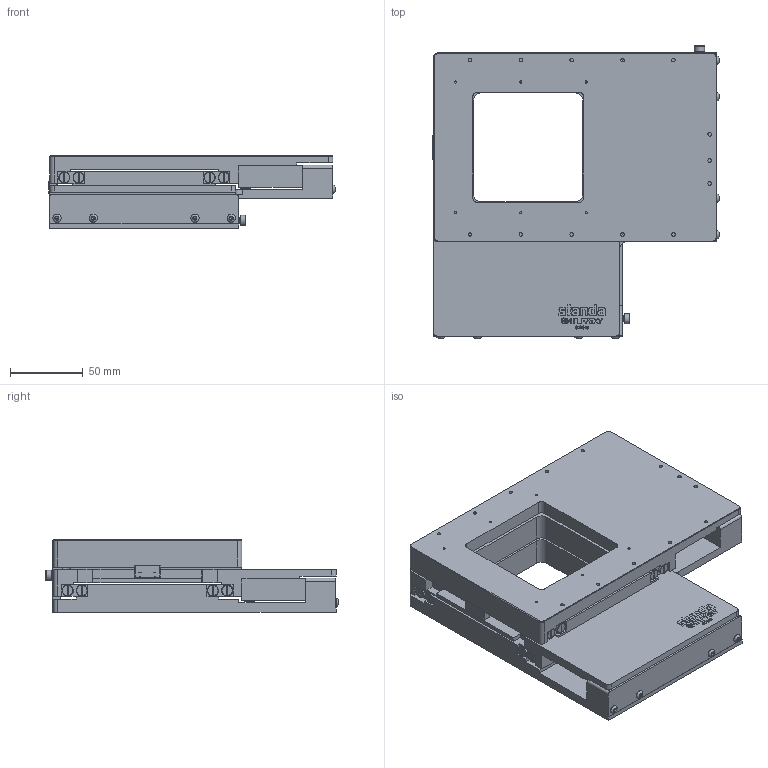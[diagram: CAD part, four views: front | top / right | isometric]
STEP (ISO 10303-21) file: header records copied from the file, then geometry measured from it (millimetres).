
FILE_DESCRIPTION(/* description */ (''),/* implementation_level */ '2;1');
FILE_NAME(/* name */ 'U:\KONSTRUKTORIAI\DOKUMENTACIJA\8\8MTLF75\STEP\8MTLF75XY SB.stp',/* time_stamp */ '2021-02-03T09:51:36+02:00',/* author */ ('dsgn36'),/* organization */ (''),/* preprocessor_version */ 'ST-DEVELOPER v15.2',/* originating_system */ 'Autodesk Inventor 2014',/* authorisation */ '');
FILE_SCHEMA (('CONFIG_CONTROL_DESIGN'));
Length unit declared in the file: millimetre
Products named in the file (2): Part10; 8MTLF75XY SB
Bounding box: 196.95 x 201.5 x 50 mm (x, y, z)
Volume: 932353.9 mm3; surface area: 207529.1 mm2
Topology: 1 solids, 7 shells, 1181 faces, 3206 edges, 2115 vertices
Faces by surface type: plane 736, cylinder 251, bspline 96, cone 82, torus 16
Full cylindrical faces by diameter (mm): 1.5 x10, 1.567 x6, 2 x2, 2.013 x2, 2.45 x10, 2.459 x17, 4 x2, 4.3 x2, 4.5 x4, 5 x4, 5.5 x2, 5.7 x8, 6 x2, 7 x8, 7.7 x16
Entity records: 36572 total; most frequent: CARTESIAN_POINT 8388, ORIENTED_EDGE 5920, DIRECTION 5422, EDGE_CURVE 2960, VERTEX_POINT 2028, LINE 1970, VECTOR 1970, AXIS2_PLACEMENT_3D 1726
